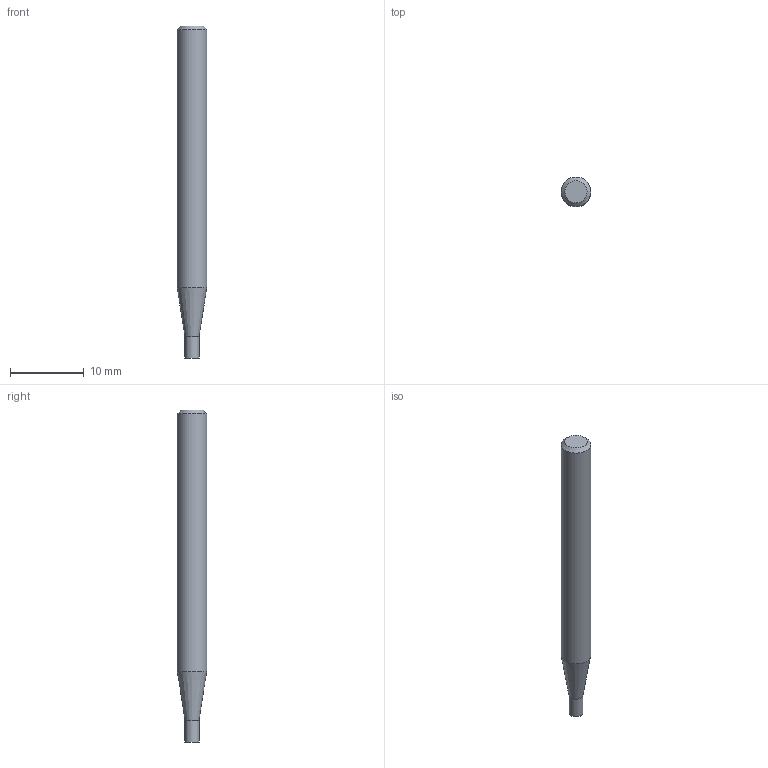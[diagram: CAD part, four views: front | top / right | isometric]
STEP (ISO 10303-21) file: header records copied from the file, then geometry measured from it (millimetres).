
FILE_DESCRIPTION((''),'2;1');
FILE_NAME('C:\Users\nsx150\AppData\Local\Temp\Mastercam 2021\98T1Q6BTT1\TEMP.step','2021-10-21T14:47:59',(''),(''),'STEP Write','Mastercam 2021 ... CNC Software, Inc.','');
FILE_SCHEMA(('AUTOMOTIVE_DESIGN'));
Length unit declared in the file: millimetre
Products named in the file (1): None
Bounding box: 4 x 4 x 45 mm (x, y, z)
Volume: 499.7 mm3; surface area: 542.3 mm2
Topology: 2 solids, 2 shells, 8 faces, 10 edges, 6 vertices
Faces by surface type: plane 4, cylinder 2, cone 2
Full cylindrical faces by diameter (mm): 1.9 x1, 4 x1
Entity records: 190 total; most frequent: DIRECTION 32, CARTESIAN_POINT 22, AXIS2_PLACEMENT_3D 16, ORIENTED_EDGE 12, EDGE_LOOP 12, STYLED_ITEM 11, ADVANCED_FACE 8, VERTEX_POINT 6
